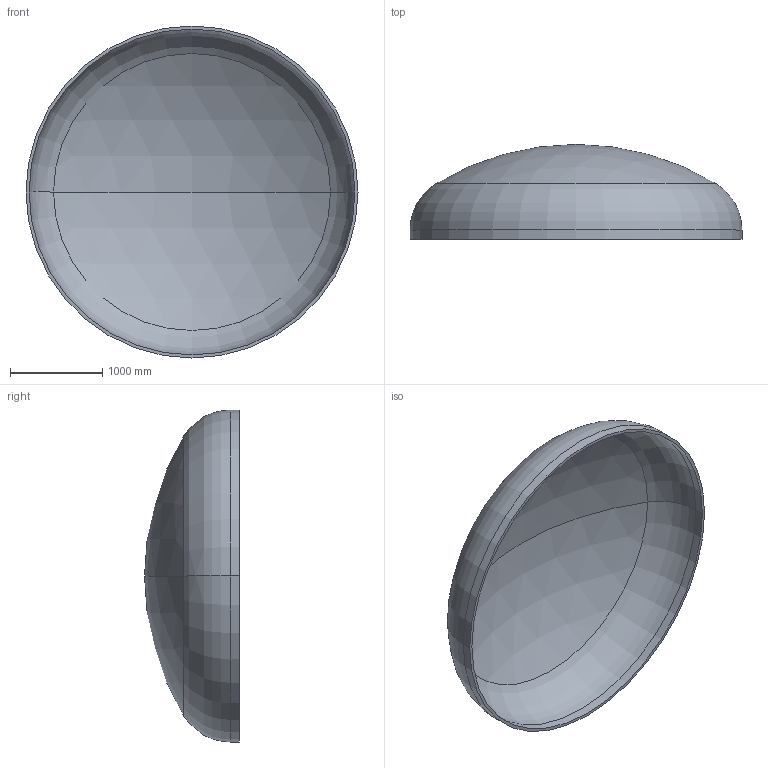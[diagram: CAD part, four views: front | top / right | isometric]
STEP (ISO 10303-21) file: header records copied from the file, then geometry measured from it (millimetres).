
FILE_DESCRIPTION (( 'STEP AP203' ), '1' );
FILE_NAME ('DIN 28013 Korbbogenform_-_Boden DIN 28013 - 3600 x 100 - I - s=33.step', '2016-07-01T20:19:55', ( '' ), ( '' ), 'SwSTEP 2.0', 'SolidWorks 2013', '' );
FILE_SCHEMA (( 'CONFIG_CONTROL_DESIGN' ));
Length unit declared in the file: millimetre
Products named in the file (1): DIN 28013 Korbbogenform_-_Boden DIN 28013 - 3600 x 100 - I - s=33
Bounding box: 3600 x 1028.89 x 3600 mm (x, y, z)
Volume: 496688074.7 mm3; surface area: 30474377.1 mm2
Topology: 1 solids, 1 shells, 13 faces, 24 edges, 14 vertices
Faces by surface type: torus 4, cylinder 4, sphere 4, plane 1
Entity records: 407 total; most frequent: DIRECTION 72, CARTESIAN_POINT 52, ORIENTED_EDGE 48, AXIS2_PLACEMENT_3D 34, EDGE_CURVE 24, CIRCLE 20, VERTEX_POINT 14, EDGE_LOOP 14
